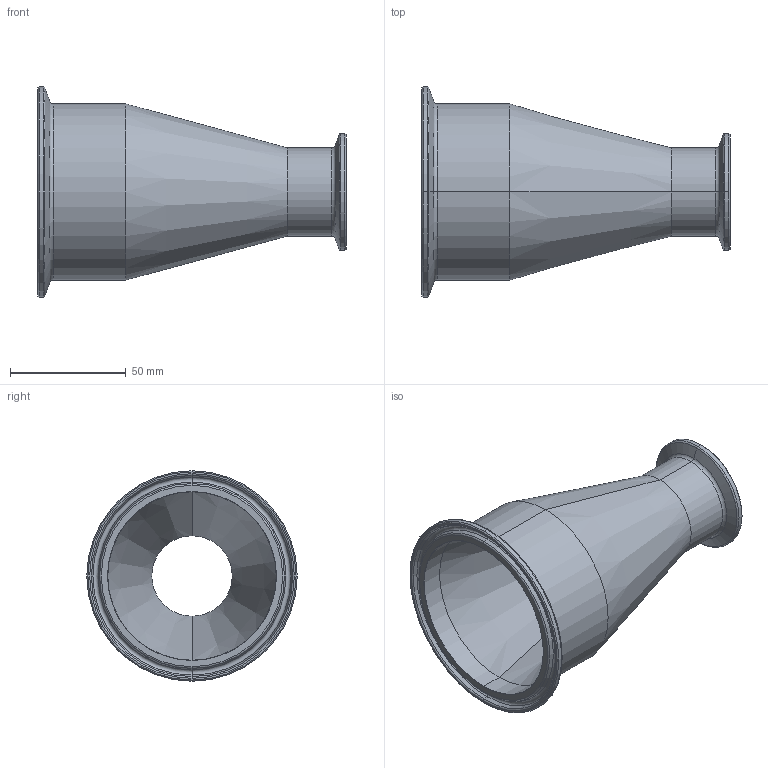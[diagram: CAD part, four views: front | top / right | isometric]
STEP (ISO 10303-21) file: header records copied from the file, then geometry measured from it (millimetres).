
FILE_DESCRIPTION (( 'STEP AP214' ), '1' );
FILE_NAME ('TEG31SCC6I3.0x1.5.STEP', '2016-05-29T14:43:16', ( 'eran' ), ( '' ), 'SwSTEP 2.0', 'SolidWorks 2016', '' );
FILE_SCHEMA (( 'AUTOMOTIVE_DESIGN' ));
Length unit declared in the file: millimetre
Products named in the file (1): TEG31SCC6I3.0x1.5
Bounding box: 133.35 x 91 x 91 mm (x, y, z)
Volume: 148686.2 mm3; surface area: 51783.1 mm2
Topology: 1 solids, 1 shells, 60 faces, 120 edges, 64 vertices
Faces by surface type: cone 24, torus 20, cylinder 12, plane 4
Entity records: 1582 total; most frequent: DIRECTION 326, CARTESIAN_POINT 245, ORIENTED_EDGE 240, AXIS2_PLACEMENT_3D 145, EDGE_CURVE 120, CIRCLE 84, VERTEX_POINT 64, EDGE_LOOP 64
